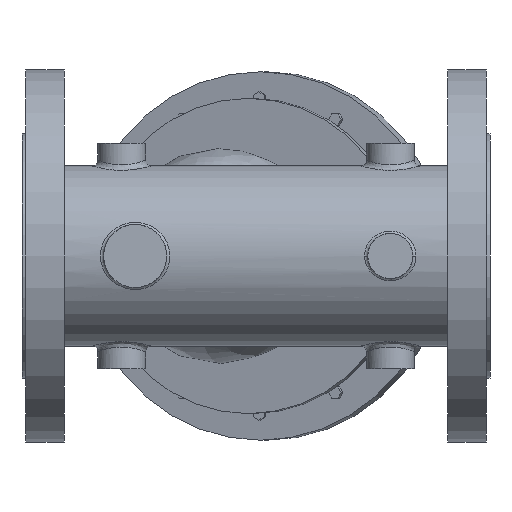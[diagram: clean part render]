
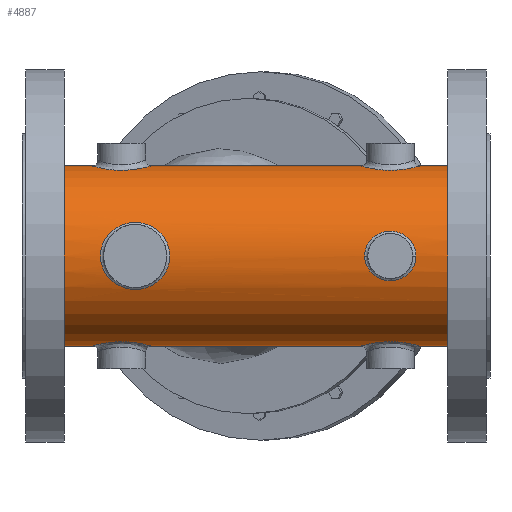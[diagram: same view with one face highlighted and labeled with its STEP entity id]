
A CAD part, front view. The second image highlights one B-rep face of the part: STEP entity #4887.
In plain terms, the highlighted cylindrical face has radius 50.8 mm (diameter 101.6 mm), a full revolution.
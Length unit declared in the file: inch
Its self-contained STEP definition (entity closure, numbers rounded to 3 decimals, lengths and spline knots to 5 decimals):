
#349=FACE_OUTER_BOUND('',#608,.T.);
#608=EDGE_LOOP('',(#3248,#3249,#3250,#3251,#3252,#3253,#3254,#3255,#3256,
#3257,#3258,#3259,#3260,#3261,#3262,#3263,#3264));
#947=CIRCLE('',#5168,2.);
#948=CIRCLE('',#5169,2.);
#949=CIRCLE('',#5170,2.);
#950=CIRCLE('',#5171,2.);
#1058=B_SPLINE_CURVE_WITH_KNOTS('',3,(#6812,#6813,#6814,#6815),
 .UNSPECIFIED.,.F.,.F.,(4,4),(-18.6025,-18.60249),
 .UNSPECIFIED.);
#1059=B_SPLINE_CURVE_WITH_KNOTS('',3,(#6817,#6818,#6819,#6820,#6821,#6822,
#6823,#6824),.UNSPECIFIED.,.F.,.F.,(4,1,1,1,1,4),(-10.43228,-9.74416,
-8.85833,-7.9725,-7.08666,-6.20083),
 .UNSPECIFIED.);
#1060=B_SPLINE_CURVE_WITH_KNOTS('',3,(#6826,#6827,#6828,#6829,#6830,#6831,
#6832,#6833),.UNSPECIFIED.,.F.,.F.,(4,1,1,1,1,4),(-12.40166,-12.10639,
-11.51583,-11.22055,-10.92528,-10.43228),
 .UNSPECIFIED.);
#1061=B_SPLINE_CURVE_WITH_KNOTS('',3,(#6840,#6841,#6842,#6843,#6844,#6845),
 .UNSPECIFIED.,.F.,.F.,(4,1,1,4),(-14.37101,-13.2875,-12.69694,
-12.40166),.UNSPECIFIED.);
#1062=B_SPLINE_CURVE_WITH_KNOTS('',3,(#6846,#6847,#6848,#6849,#6850,#6851,
#6852,#6853,#6854),.UNSPECIFIED.,.F.,.F.,(4,1,1,1,1,1,4),(-18.60249,
-17.71666,-16.83083,-15.64972,-15.05916,
-14.46861,-14.37101),.UNSPECIFIED.);
#1063=B_SPLINE_CURVE_WITH_KNOTS('',3,(#6855,#6856,#6857,#6858,#6859,#6860,
#6861,#6862,#6863,#6864,#6865),.UNSPECIFIED.,.F.,.F.,(4,1,1,1,1,1,1,1,4),
(-5.76715,-5.49252,-5.12635,-4.39402,
-3.66168,-3.29551,-2.56318,-2.19701,
-1.92238),.UNSPECIFIED.);
#1103=LINE('',#6808,#1613);
#1104=LINE('',#6810,#1614);
#1105=LINE('',#6835,#1615);
#1106=LINE('',#6867,#1616);
#1613=VECTOR('',#5546,2.);
#1614=VECTOR('',#5547,2.);
#1615=VECTOR('',#5548,2.);
#1616=VECTOR('',#5553,2.);
#2123=VERTEX_POINT('',#6806);
#2124=VERTEX_POINT('',#6807);
#2125=VERTEX_POINT('',#6809);
#2126=VERTEX_POINT('',#6811);
#2127=VERTEX_POINT('',#6816);
#2128=VERTEX_POINT('',#6825);
#2129=VERTEX_POINT('',#6834);
#2130=VERTEX_POINT('',#6836);
#2131=VERTEX_POINT('',#6839);
#2132=VERTEX_POINT('',#6866);
#2133=VERTEX_POINT('',#6868);
#2579=EDGE_CURVE('',#2123,#2124,#1103,.T.);
#2580=EDGE_CURVE('',#2123,#2125,#1104,.T.);
#2581=EDGE_CURVE('',#2126,#2125,#1058,.T.);
#2582=EDGE_CURVE('',#2127,#2126,#1059,.T.);
#2583=EDGE_CURVE('',#2128,#2127,#1060,.T.);
#2584=EDGE_CURVE('',#2128,#2129,#1105,.T.);
#2585=EDGE_CURVE('',#2129,#2130,#947,.T.);
#2586=EDGE_CURVE('',#2130,#2129,#948,.T.);
#2587=EDGE_CURVE('',#2131,#2128,#1061,.T.);
#2588=EDGE_CURVE('',#2125,#2131,#1062,.T.);
#2589=EDGE_CURVE('',#2124,#2123,#1063,.T.);
#2590=EDGE_CURVE('',#2132,#2124,#1106,.T.);
#2591=EDGE_CURVE('',#2133,#2132,#949,.T.);
#2592=EDGE_CURVE('',#2132,#2133,#950,.T.);
#3248=ORIENTED_EDGE('',*,*,#2579,.F.);
#3249=ORIENTED_EDGE('',*,*,#2580,.T.);
#3250=ORIENTED_EDGE('',*,*,#2581,.F.);
#3251=ORIENTED_EDGE('',*,*,#2582,.F.);
#3252=ORIENTED_EDGE('',*,*,#2583,.F.);
#3253=ORIENTED_EDGE('',*,*,#2584,.T.);
#3254=ORIENTED_EDGE('',*,*,#2585,.T.);
#3255=ORIENTED_EDGE('',*,*,#2586,.T.);
#3256=ORIENTED_EDGE('',*,*,#2584,.F.);
#3257=ORIENTED_EDGE('',*,*,#2587,.F.);
#3258=ORIENTED_EDGE('',*,*,#2588,.F.);
#3259=ORIENTED_EDGE('',*,*,#2580,.F.);
#3260=ORIENTED_EDGE('',*,*,#2589,.F.);
#3261=ORIENTED_EDGE('',*,*,#2590,.F.);
#3262=ORIENTED_EDGE('',*,*,#2591,.F.);
#3263=ORIENTED_EDGE('',*,*,#2592,.F.);
#3264=ORIENTED_EDGE('',*,*,#2590,.T.);
#4586=CYLINDRICAL_SURFACE('',#5167,2.);
#4887=ADVANCED_FACE('',(#349),#4586,.T.);
#5167=AXIS2_PLACEMENT_3D('',#6805,#5544,#5545);
#5168=AXIS2_PLACEMENT_3D('',#6837,#5549,#5550);
#5169=AXIS2_PLACEMENT_3D('',#6838,#5551,#5552);
#5170=AXIS2_PLACEMENT_3D('',#6869,#5554,#5555);
#5171=AXIS2_PLACEMENT_3D('',#6870,#5556,#5557);
#5544=DIRECTION('center_axis',(1.,0.,0.));
#5545=DIRECTION('ref_axis',(0.,1.,0.));
#5546=DIRECTION('',(1.,0.,0.));
#5547=DIRECTION('',(-1.,0.,0.));
#5548=DIRECTION('',(-1.,0.,0.));
#5549=DIRECTION('center_axis',(1.,0.,0.));
#5550=DIRECTION('ref_axis',(0.,0.,-1.));
#5551=DIRECTION('center_axis',(1.,0.,0.));
#5552=DIRECTION('ref_axis',(0.,0.,-1.));
#5553=DIRECTION('',(-1.,0.,0.));
#5554=DIRECTION('center_axis',(1.,0.,0.));
#5555=DIRECTION('ref_axis',(0.,0.,-1.));
#5556=DIRECTION('center_axis',(1.,0.,0.));
#5557=DIRECTION('ref_axis',(0.,0.,-1.));
#6805=CARTESIAN_POINT('Origin',(0.,0.,0.));
#6806=CARTESIAN_POINT('',(2.412,-2.,0.));
#6807=CARTESIAN_POINT('',(3.552,-2.,0.));
#6808=CARTESIAN_POINT('',(0.,-2.,0.));
#6809=CARTESIAN_POINT('',(-1.912,-2.,0.));
#6810=CARTESIAN_POINT('',(0.,-2.,0.));
#6811=CARTESIAN_POINT('',(-1.912,-2.,0.));
#6812=CARTESIAN_POINT('Ctrl Pts',(-1.912,-2.,0.));
#6813=CARTESIAN_POINT('Ctrl Pts',(-1.912,-2.,0.));
#6814=CARTESIAN_POINT('Ctrl Pts',(-1.912,-2.,0.));
#6815=CARTESIAN_POINT('Ctrl Pts',(-1.912,-2.,0.));
#6816=CARTESIAN_POINT('',(-3.10048,-1.9,-0.6245));
#6817=CARTESIAN_POINT('Ctrl Pts',(-3.10035,-1.9,-0.6245));
#6818=CARTESIAN_POINT('Ctrl Pts',(-3.02563,-1.88462,-0.67122));
#6819=CARTESIAN_POINT('Ctrl Pts',(-2.83523,-1.85419,-0.75011));
#6820=CARTESIAN_POINT('Ctrl Pts',(-2.50208,-1.85429,-0.75));
#6821=CARTESIAN_POINT('Ctrl Pts',(-2.18516,-1.91203,-0.60026));
#6822=CARTESIAN_POINT('Ctrl Pts',(-1.96606,-1.97975,-0.33649));
#6823=CARTESIAN_POINT('Ctrl Pts',(-1.912,-2.,-0.11233));
#6824=CARTESIAN_POINT('Ctrl Pts',(-1.912,-2.,0.));
#6825=CARTESIAN_POINT('',(-3.452,-2.,0.));
#6826=CARTESIAN_POINT('Ctrl Pts',(-3.45197,-1.99998,-0.00001));
#6827=CARTESIAN_POINT('Ctrl Pts',(-3.45198,-1.99999,-0.03745));
#6828=CARTESIAN_POINT('Ctrl Pts',(-3.4433,-1.99692,-0.14976));
#6829=CARTESIAN_POINT('Ctrl Pts',(-3.3968,-1.98033,-0.29365));
#6830=CARTESIAN_POINT('Ctrl Pts',(-3.31971,-1.95577,-0.42175));
#6831=CARTESIAN_POINT('Ctrl Pts',(-3.23246,-1.93033,-0.52748));
#6832=CARTESIAN_POINT('Ctrl Pts',(-3.15387,-1.91102,-0.59103));
#6833=CARTESIAN_POINT('Ctrl Pts',(-3.10035,-1.9,-0.6245));
#6834=CARTESIAN_POINT('',(-4.255,-2.,0.));
#6835=CARTESIAN_POINT('',(0.,-2.,0.));
#6836=CARTESIAN_POINT('',(-4.255,2.,0.));
#6837=CARTESIAN_POINT('Origin',(-4.255,0.,0.));
#6838=CARTESIAN_POINT('Origin',(-4.255,0.,0.));
#6839=CARTESIAN_POINT('',(-3.10048,-1.9,0.6245));
#6840=CARTESIAN_POINT('Ctrl Pts',(-3.10049,-1.90001,0.62454));
#6841=CARTESIAN_POINT('Ctrl Pts',(-3.21788,-1.92408,0.55098));
#6842=CARTESIAN_POINT('Ctrl Pts',(-3.36588,-1.96947,0.38986));
#6843=CARTESIAN_POINT('Ctrl Pts',(-3.44323,-1.99685,0.14976));
#6844=CARTESIAN_POINT('Ctrl Pts',(-3.45197,-1.99997,0.03743));
#6845=CARTESIAN_POINT('Ctrl Pts',(-3.45197,-1.99998,-0.00001));
#6846=CARTESIAN_POINT('Ctrl Pts',(-1.912,-2.,0.));
#6847=CARTESIAN_POINT('Ctrl Pts',(-1.912,-2.,0.11233));
#6848=CARTESIAN_POINT('Ctrl Pts',(-1.96639,-1.9801,0.33625));
#6849=CARTESIAN_POINT('Ctrl Pts',(-2.20884,-1.9038,0.63004));
#6850=CARTESIAN_POINT('Ctrl Pts',(-2.54385,-1.84976,0.75937));
#6851=CARTESIAN_POINT('Ctrl Pts',(-2.85794,-1.85997,0.73582));
#6852=CARTESIAN_POINT('Ctrl Pts',(-3.01412,-1.88285,0.67614));
#6853=CARTESIAN_POINT('Ctrl Pts',(-3.08991,-1.89784,0.63117));
#6854=CARTESIAN_POINT('Ctrl Pts',(-3.10049,-1.90001,0.62454));
#6855=CARTESIAN_POINT('Ctrl Pts',(3.55208,-2.00007,-0.00009));
#6856=CARTESIAN_POINT('Ctrl Pts',(3.55204,-2.00003,0.04133));
#6857=CARTESIAN_POINT('Ctrl Pts',(3.54058,-1.99685,0.13809));
#6858=CARTESIAN_POINT('Ctrl Pts',(3.46171,-1.97693,0.33177));
#6859=CARTESIAN_POINT('Ctrl Pts',(3.24587,-1.93115,0.52625));
#6860=CARTESIAN_POINT('Ctrl Pts',(2.95046,-1.9169,0.56968));
#6861=CARTESIAN_POINT('Ctrl Pts',(2.67489,-1.94106,0.48673));
#6862=CARTESIAN_POINT('Ctrl Pts',(2.50246,-1.97652,0.33202));
#6863=CARTESIAN_POINT('Ctrl Pts',(2.42326,-1.99706,0.13797));
#6864=CARTESIAN_POINT('Ctrl Pts',(2.41213,-1.99993,0.04136));
#6865=CARTESIAN_POINT('Ctrl Pts',(2.41212,-1.99993,-0.00004));
#6866=CARTESIAN_POINT('',(4.255,-2.,0.));
#6867=CARTESIAN_POINT('',(0.,-2.,0.));
#6868=CARTESIAN_POINT('',(4.255,2.,0.));
#6869=CARTESIAN_POINT('Origin',(4.255,0.,0.));
#6870=CARTESIAN_POINT('Origin',(4.255,0.,0.));
